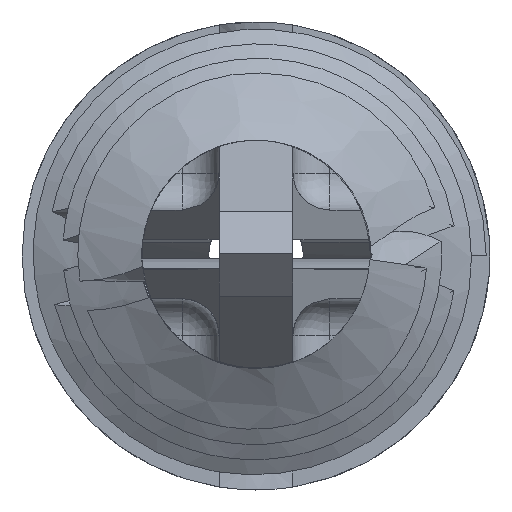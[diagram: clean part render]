
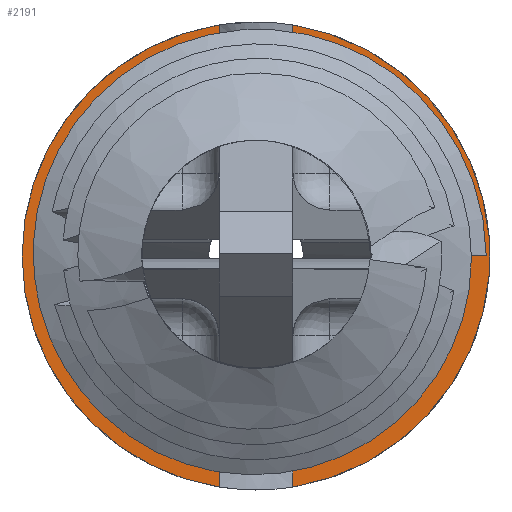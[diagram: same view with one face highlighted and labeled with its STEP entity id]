
A CAD part, top view. The second image highlights one B-rep face of the part: STEP entity #2191.
In plain terms, the highlighted planar face has unit normal (0, 0, 1).
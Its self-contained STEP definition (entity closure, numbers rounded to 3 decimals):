
#36=FACE_BOUND('',#347,.T.);
#134=PLANE('',#2359);
#228=FACE_OUTER_BOUND('',#346,.T.);
#346=EDGE_LOOP('',(#1848,#1849,#1850,#1851,#1852,#1853,#1854,#1855,#1856));
#347=EDGE_LOOP('',(#1857));
#409=CIRCLE('',#2305,5.1);
#419=CIRCLE('',#2360,7.925);
#420=CIRCLE('',#2361,7.925);
#421=CIRCLE('',#2362,5.925);
#422=CIRCLE('',#2363,7.925);
#423=CIRCLE('',#2364,5.925);
#627=LINE('',#7113,#780);
#628=LINE('',#7119,#781);
#629=LINE('',#7123,#782);
#630=LINE('',#7127,#783);
#780=VECTOR('',#2718,10.);
#781=VECTOR('',#2723,10.);
#782=VECTOR('',#2726,10.);
#783=VECTOR('',#2729,10.);
#944=VERTEX_POINT('',#4496);
#1022=VERTEX_POINT('',#7111);
#1023=VERTEX_POINT('',#7112);
#1024=VERTEX_POINT('',#7114);
#1025=VERTEX_POINT('',#7116);
#1026=VERTEX_POINT('',#7118);
#1027=VERTEX_POINT('',#7120);
#1028=VERTEX_POINT('',#7122);
#1029=VERTEX_POINT('',#7124);
#1030=VERTEX_POINT('',#7126);
#1186=EDGE_CURVE('',#944,#944,#409,.T.);
#1317=EDGE_CURVE('',#1022,#1023,#627,.T.);
#1318=EDGE_CURVE('',#1023,#1024,#419,.T.);
#1319=EDGE_CURVE('',#1024,#1025,#420,.T.);
#1320=EDGE_CURVE('',#1025,#1026,#628,.T.);
#1321=EDGE_CURVE('',#1026,#1027,#421,.T.);
#1322=EDGE_CURVE('',#1027,#1028,#629,.T.);
#1323=EDGE_CURVE('',#1028,#1029,#422,.T.);
#1324=EDGE_CURVE('',#1029,#1030,#630,.T.);
#1325=EDGE_CURVE('',#1030,#1022,#423,.T.);
#1848=ORIENTED_EDGE('',*,*,#1317,.T.);
#1849=ORIENTED_EDGE('',*,*,#1318,.T.);
#1850=ORIENTED_EDGE('',*,*,#1319,.T.);
#1851=ORIENTED_EDGE('',*,*,#1320,.T.);
#1852=ORIENTED_EDGE('',*,*,#1321,.T.);
#1853=ORIENTED_EDGE('',*,*,#1322,.T.);
#1854=ORIENTED_EDGE('',*,*,#1323,.T.);
#1855=ORIENTED_EDGE('',*,*,#1324,.T.);
#1856=ORIENTED_EDGE('',*,*,#1325,.T.);
#1857=ORIENTED_EDGE('',*,*,#1186,.T.);
#2191=ADVANCED_FACE('',(#228,#36),#134,.T.);
#2305=AXIS2_PLACEMENT_3D('',#4498,#2560,#2561);
#2359=AXIS2_PLACEMENT_3D('',#7110,#2716,#2717);
#2360=AXIS2_PLACEMENT_3D('',#7115,#2719,#2720);
#2361=AXIS2_PLACEMENT_3D('',#7117,#2721,#2722);
#2362=AXIS2_PLACEMENT_3D('',#7121,#2724,#2725);
#2363=AXIS2_PLACEMENT_3D('',#7125,#2727,#2728);
#2364=AXIS2_PLACEMENT_3D('',#7128,#2730,#2731);
#2560=DIRECTION('center_axis',(0.,0.,-1.));
#2561=DIRECTION('ref_axis',(-1.,0.,0.));
#2716=DIRECTION('center_axis',(0.,0.,1.));
#2717=DIRECTION('ref_axis',(1.,0.,0.));
#2718=DIRECTION('',(-0.002,1.,0.));
#2719=DIRECTION('center_axis',(0.,0.,1.));
#2720=DIRECTION('ref_axis',(1.,0.,0.));
#2721=DIRECTION('center_axis',(0.,0.,1.));
#2722=DIRECTION('ref_axis',(1.,0.,0.));
#2723=DIRECTION('',(-0.002,1.,0.));
#2724=DIRECTION('center_axis',(0.,0.,1.));
#2725=DIRECTION('ref_axis',(-1.,0.,0.));
#2726=DIRECTION('',(0.,-1.,0.));
#2727=DIRECTION('center_axis',(0.,0.,1.));
#2728=DIRECTION('ref_axis',(1.,0.,0.));
#2729=DIRECTION('',(0.,-1.,0.));
#2730=DIRECTION('center_axis',(0.,0.,1.));
#2731=DIRECTION('ref_axis',(-1.,0.,0.));
#4496=CARTESIAN_POINT('',(5.1,0.,1.15));
#4498=CARTESIAN_POINT('Origin',(0.,0.,
1.15));
#7110=CARTESIAN_POINT('Origin',(0.,0.,1.15));
#7111=CARTESIAN_POINT('',(-1.246,5.792,1.15));
#7112=CARTESIAN_POINT('',(-1.25,7.826,1.15));
#7113=CARTESIAN_POINT('',(-1.243,3.912,1.15));
#7114=CARTESIAN_POINT('',(-7.925,0.,1.15));
#7115=CARTESIAN_POINT('Origin',(0.,0.,1.15));
#7116=CARTESIAN_POINT('',(-1.222,-7.83,1.15));
#7117=CARTESIAN_POINT('Origin',(0.,0.,1.15));
#7118=CARTESIAN_POINT('',(-1.226,-5.797,1.15));
#7119=CARTESIAN_POINT('',(-1.231,-2.9,1.15));
#7120=CARTESIAN_POINT('',(1.25,-5.792,1.15));
#7121=CARTESIAN_POINT('Origin',(0.,0.,1.15));
#7122=CARTESIAN_POINT('',(1.25,-7.826,1.15));
#7123=CARTESIAN_POINT('',(1.25,-3.913,1.15));
#7124=CARTESIAN_POINT('',(1.25,7.826,1.15));
#7125=CARTESIAN_POINT('Origin',(0.,0.,1.15));
#7126=CARTESIAN_POINT('',(1.25,5.792,1.15));
#7127=CARTESIAN_POINT('',(1.25,2.896,1.15));
#7128=CARTESIAN_POINT('Origin',(0.,0.,1.15));
